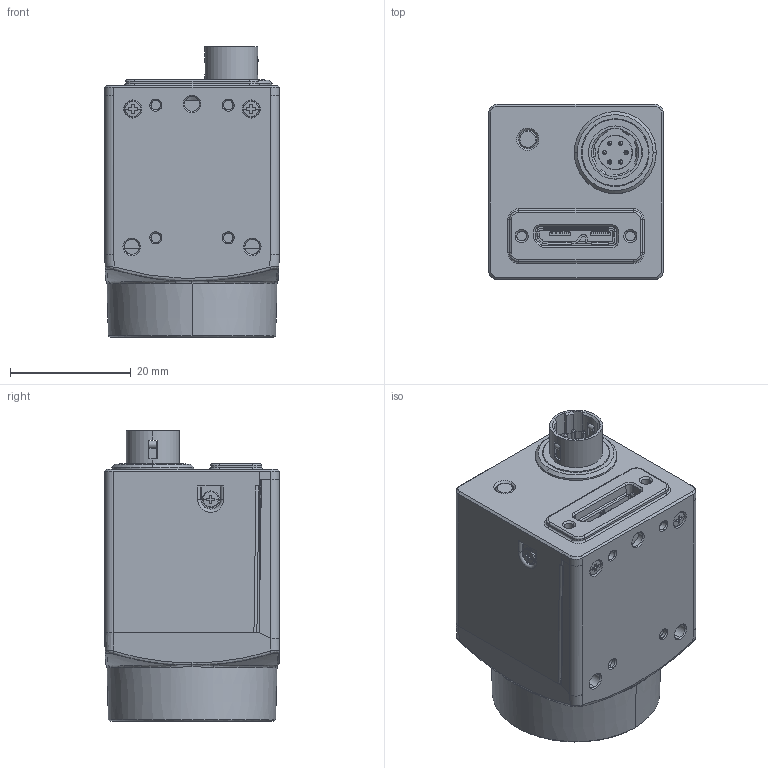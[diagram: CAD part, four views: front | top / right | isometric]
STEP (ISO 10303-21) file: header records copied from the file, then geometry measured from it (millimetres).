
FILE_DESCRIPTION((''),'2;1');
FILE_NAME('OPT-C1B-USB___SW0005','2025-02-12T11:58:32',('optba'),(''),'CREO PARAMETRIC BY PTC INC, 2020354','CREO PARAMETRIC BY PTC INC, 2020354','');
FILE_SCHEMA(('CONFIG_CONTROL_DESIGN','SHAPE_APPEARANCE_LAYERS_GROUPS'));
Length unit declared in the file: millimetre
Products named in the file (1): OPT-C1B-USB___SW0005
Bounding box: 29 x 29 x 48.2 mm (x, y, z)
Volume: 26982.4 mm3; surface area: 10098.4 mm2
Topology: 1 solids, 1 shells, 1232 faces, 3359 edges, 2141 vertices
Faces by surface type: plane 735, cylinder 295, cone 116, bspline 51, torus 23, sphere 10, extrusion 2
Entity records: 44010 total; most frequent: CARTESIAN_POINT 12445, ORIENTED_EDGE 6718, DIRECTION 6383, EDGE_CURVE 3359, VECTOR 2261, LINE 2259, VERTEX_POINT 2141, AXIS2_PLACEMENT_3D 2061
